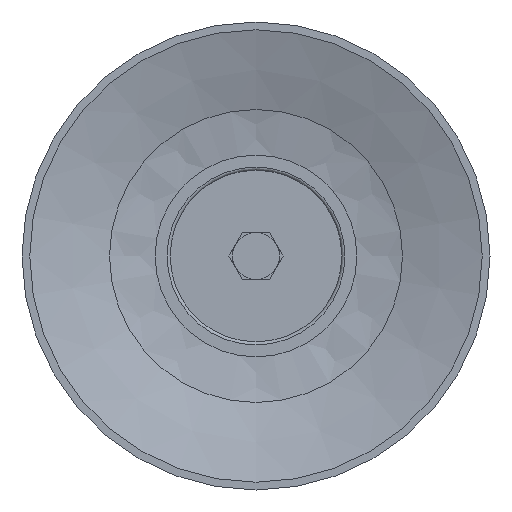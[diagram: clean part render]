
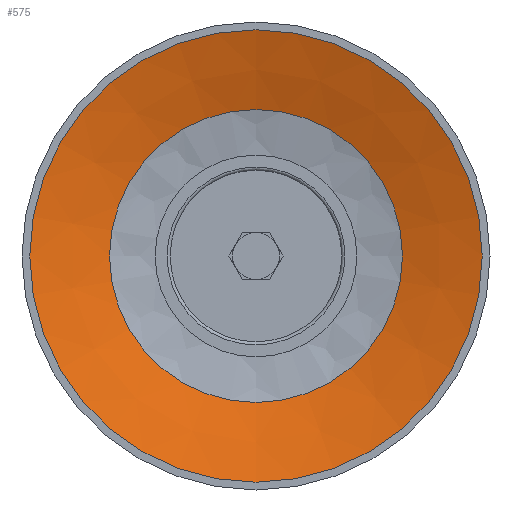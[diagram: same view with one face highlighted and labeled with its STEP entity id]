
A CAD part, front view. The second image highlights one B-rep face of the part: STEP entity #575.
In plain terms, the highlighted conical face has half-angle 73 degrees and reference radius 7.958 mm.
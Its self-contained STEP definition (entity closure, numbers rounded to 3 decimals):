
#575=ADVANCED_FACE('',(#869,#870),#871,.F.);
#869=FACE_BOUND('',#1186,.T.);
#870=FACE_OUTER_BOUND('',#1187,.T.);
#871=CONICAL_SURFACE('',#1188,7.958,1.274);
#1186=EDGE_LOOP('',(#2098));
#1187=EDGE_LOOP('',(#2099));
#1188=AXIS2_PLACEMENT_3D('',#2100,#2101,#2102);
#2098=ORIENTED_EDGE('',*,*,#2397,.T.);
#2099=ORIENTED_EDGE('',*,*,#2398,.T.);
#2100=CARTESIAN_POINT('',(0.0,9.363,0.0));
#2101=DIRECTION('',(-0.0,-1.0,0.));
#2102=DIRECTION('',(0.0,0.,-1.0));
#2397=EDGE_CURVE('',#2812,#2812,#2813,.T.);
#2398=EDGE_CURVE('',#2814,#2814,#2815,.T.);
#2812=VERTEX_POINT('',#3747);
#2813=CIRCLE('',#3748,9.388);
#2814=VERTEX_POINT('',#3749);
#2815=CIRCLE('',#3750,14.5);
#3747=CARTESIAN_POINT('',(0.0,8.926,-9.388));
#3748=AXIS2_PLACEMENT_3D('',#4110,#4111,#4112);
#3749=CARTESIAN_POINT('',(0.0,7.363,-14.5));
#3750=AXIS2_PLACEMENT_3D('',#4113,#4114,#4115);
#4110=CARTESIAN_POINT('',(0.0,8.926,0.0));
#4111=DIRECTION('',(0.0,1.0,0.));
#4112=DIRECTION('',(0.0,0.,-1.0));
#4113=CARTESIAN_POINT('',(0.0,7.363,0.0));
#4114=DIRECTION('',(0.0,-1.0,0.));
#4115=DIRECTION('',(0.0,0.,-1.0));
